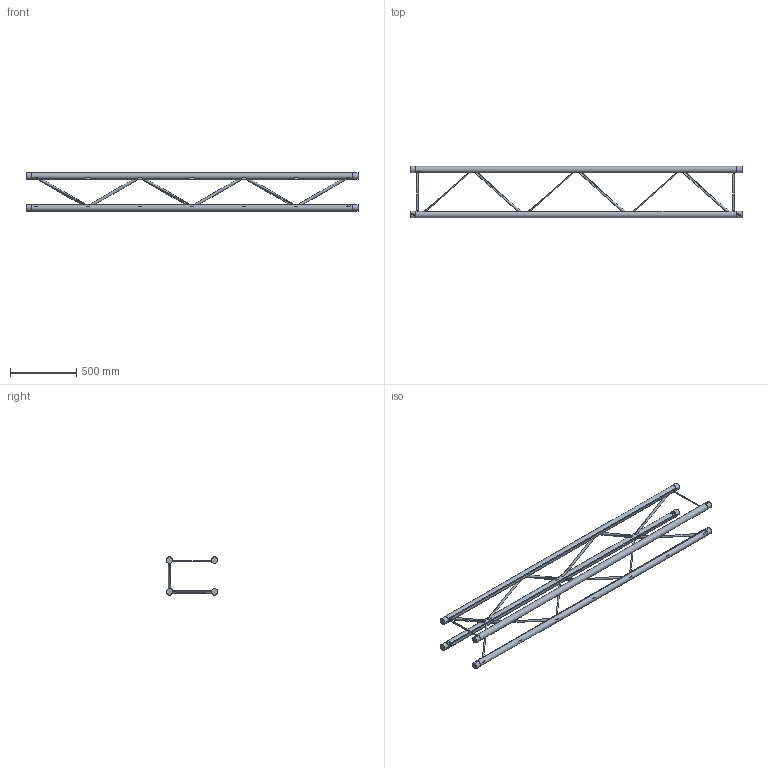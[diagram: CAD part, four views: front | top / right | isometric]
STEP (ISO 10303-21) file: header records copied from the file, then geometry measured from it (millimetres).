
FILE_DESCRIPTION(/* description */ (''),/* implementation_level */ '2;1');
FILE_NAME(/* name */ 'C:\Users\adrian.toca\Desktop\111050503.stp',/* time_stamp */ '2016-09-16T15:08:22+03:00',/* author */ ('adrian.toca'),/* organization */ (''),/* preprocessor_version */ 'ST-DEVELOPER v15.6',/* originating_system */ 'Autodesk Inventor 2015',/* authorisation */ '');
FILE_SCHEMA (('AUTOMOTIVE_DESIGN { 1 0 10303 214 3 1 1 }'));
Length unit declared in the file: millimetre
Products named in the file (1): 260030899
Bounding box: 2500 x 387.3 x 287.3 mm (x, y, z)
Volume: 12248950.6 mm3; surface area: 19602.8 mm2
Topology: 1 solids, 1 shells, 137 faces, 264 edges, 208 vertices
Faces by surface type: plane 76, cylinder 53, cone 8
Full cylindrical faces by diameter (mm): 10 x8, 20 x12, 48.3 x17
Entity records: 6078 total; most frequent: CARTESIAN_POINT 2778, DIRECTION 606, ORIENTED_EDGE 556, EDGE_LOOP 286, AXIS2_PLACEMENT_3D 278, EDGE_CURVE 264, VERTEX_POINT 208, FACE_BOUND 149
